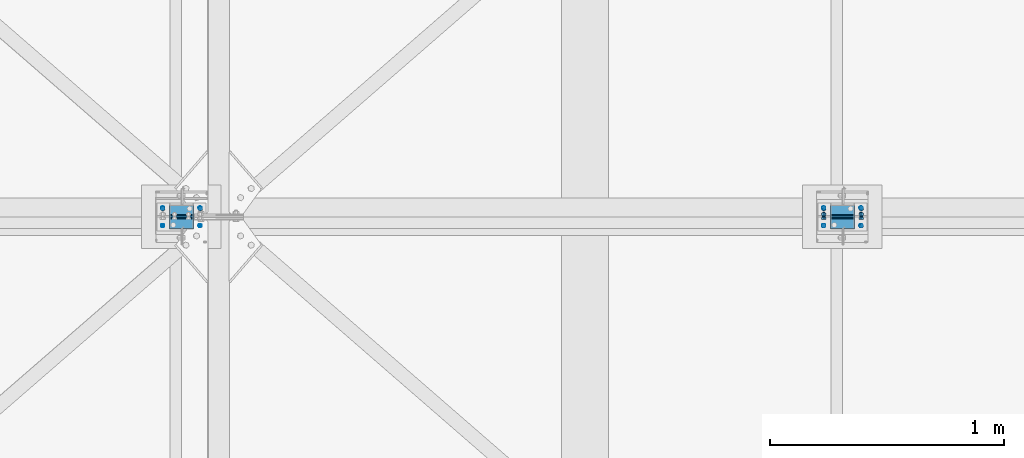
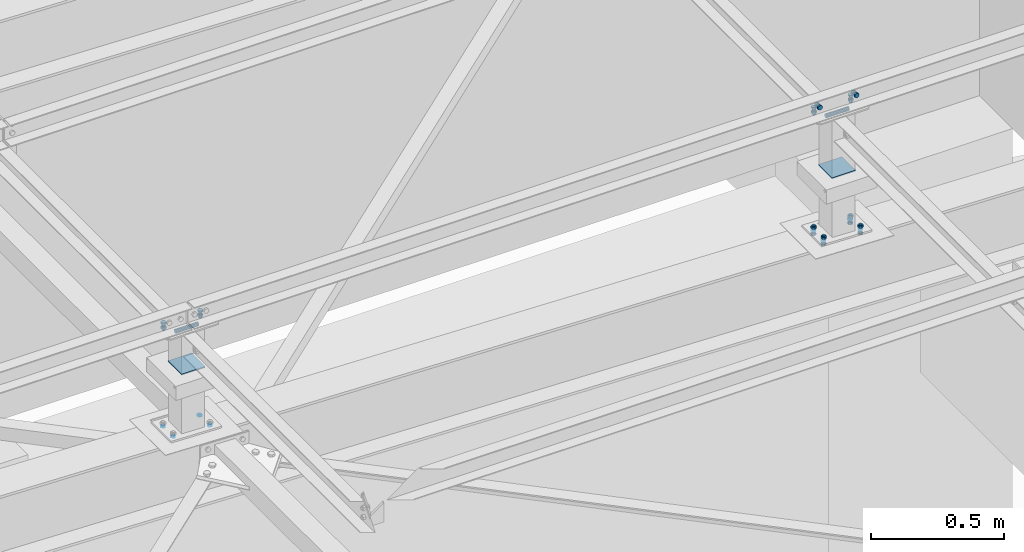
# One storey, part 237 of 3134: 10 mechanical fasteners, 7 elements without a shape of their own.
"""IFC2X3 building model written with IfcOpenShell, lengths in millimetres."""

from ifc_helpers import new_model, si_unit, frame, origin_with_axes, place, context, subcontext, project, spatial, faceted_brep, source, transform, mapped, material, type_object, element, aggregate, save


model = new_model("IFC2X3")

# Units and contexts
model_context = context("Model", 3, precision=1e-05, world=origin_with_axes())
body_context = subcontext(model_context, "Body", "Model", "MODEL_VIEW")
ifc_project = project(units=[si_unit("LENGTHUNIT", "METRE", prefix="MILLI"), si_unit("AREAUNIT", "SQUARE_METRE"), si_unit("VOLUMEUNIT", "CUBIC_METRE"), si_unit("MASSUNIT", "GRAM", prefix="KILO"), si_unit("TIMEUNIT", "SECOND"), si_unit("PLANEANGLEUNIT", "RADIAN"), si_unit("SOLIDANGLEUNIT", "STERADIAN"), si_unit("THERMODYNAMICTEMPERATUREUNIT", "DEGREE_CELSIUS"), si_unit("LUMINOUSINTENSITYUNIT", "LUMEN")], contexts=[model_context])

# Site, building, storey
site_placement = place(None, origin_with_axes())
site = spatial("IfcSite", under=ifc_project, at=site_placement, CompositionType="ELEMENT")
building_placement = place(site_placement, origin_with_axes())
building = spatial("IfcBuilding", under=site, at=building_placement, Name="Undefined", CompositionType="ELEMENT")
storey_placement = place(building_placement, origin_with_axes())
storey = spatial("IfcBuildingStorey", under=building, at=storey_placement, Name="Undefined", CompositionType="ELEMENT", Elevation=0.0)

# Assembly, mechanical fastener
assembly_1_placement = place(storey_placement, origin_with_axes())
assembly_1 = element("IfcElementAssembly", 1, at=assembly_1_placement, inside=storey, AssemblyPlace="NOTDEFINED", PredefinedType="RIGID_FRAME")
ifc_material_1 = material(Name="8.8")
mechanical_fastener_type = type_object("IfcMechanicalFastenerType", Name="Bolt assembly")
shared_shape_1 = source(origin_with_axes(), body_context, "Body", "Brep", [
    faceted_brep([(10.9696551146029, -14.0, 0.0), (5.48482755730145, -14.0, 9.5), (-5.48482755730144, -14.0, 9.5), (-10.9696551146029, -14.0, 1.34339530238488e-15), (-5.48482755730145, -14.0, -9.5), (5.48482755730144, -14.0, -9.50000000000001), (5.48482755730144, -6.0, -9.50000000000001), (-5.48482755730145, -6.0, -9.5), (-10.9696551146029, -6.0, 1.34339530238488e-15), (-5.48482755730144, -6.0, 9.5), (5.48482755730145, -6.0, 9.5), (10.9696551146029, -6.0, 0.0), (6.0, -6.0, 0.0), (5.19615242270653, -6.0, 3.00000000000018), (2.99999999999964, -6.0, 5.19615242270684), (-6.21801588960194e-13, -6.0, 6.0), (-3.00000000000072, -6.0, 5.19615242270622), (-5.19615242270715, -6.0, 2.9999999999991), (-6.0, -6.0, -1.24360317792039e-12), (-5.19615242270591, -6.0, -3.00000000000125), (-2.99999999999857, -6.0, -5.19615242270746), (1.85874342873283e-12, -6.0, -6.0), (3.00000000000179, -6.0, -5.1961524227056), (5.19615242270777, -6.0, -2.99999999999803), (5.19615242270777, 24.0, -2.99999999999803), (3.00000000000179, 24.0, -5.1961524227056), (1.85874342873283e-12, 24.0, -6.0), (-2.99999999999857, 24.0, -5.19615242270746), (-5.19615242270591, 24.0, -3.00000000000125), (-6.0, 24.0, -1.24360317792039e-12), (-5.19615242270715, 24.0, 2.9999999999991), (-3.00000000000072, 24.0, 5.19615242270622), (-6.21801588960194e-13, 24.0, 6.0), (2.99999999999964, 24.0, 5.19615242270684), (5.19615242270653, 24.0, 3.00000000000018), (6.0, 24.0, 0.0), (10.9696551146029, 6.00000000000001, 0.0), (5.48482755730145, 6.00000000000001, 9.5), (-5.48482755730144, 6.00000000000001, 9.5), (-10.9696551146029, 6.00000000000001, 1.34339530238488e-15), (-5.48482755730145, 6.00000000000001, -9.5), (5.48482755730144, 6.00000000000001, -9.50000000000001), (5.48482755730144, 16.0, -9.50000000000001), (-5.48482755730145, 16.0, -9.5), (-10.9696551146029, 16.0, 1.34339530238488e-15), (-5.48482755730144, 16.0, 9.5), (5.48482755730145, 16.0, 9.5), (10.9696551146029, 16.0, 0.0)], [[[0, 1, 2, 3, 4, 5]], [[6, 7, 8, 9, 10, 11]], [[0, 11, 10, 1]], [[1, 10, 9, 2]], [[2, 9, 8, 3]], [[3, 8, 7, 4]], [[4, 7, 6, 5]], [[5, 6, 11, 0]], [[12, 13, 14, 15, 16, 17, 18, 19, 20, 21, 22, 23]], [[24, 25, 26, 27, 28, 29, 30, 31, 32, 33, 34, 35]], [[12, 35, 34, 13]], [[13, 34, 33, 14]], [[14, 33, 32, 15]], [[15, 32, 31, 16]], [[16, 31, 30, 17]], [[17, 30, 29, 18]], [[18, 29, 28, 19]], [[19, 28, 27, 20]], [[20, 27, 26, 21]], [[21, 26, 25, 22]], [[22, 25, 24, 23]], [[23, 24, 35, 12]], [[36, 37, 38, 39, 40, 41]], [[42, 43, 44, 45, 46, 47]], [[36, 47, 46, 37]], [[37, 46, 45, 38]], [[38, 45, 44, 39]], [[39, 44, 43, 40]], [[40, 43, 42, 41]], [[41, 42, 47, 36]]]),
    faceted_brep([(7.0, -0.1, 0.0), (6.06217782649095, -0.1, 3.50000000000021), (3.49999999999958, -0.1, 6.06217782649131), (-7.25435187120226e-13, -0.1, 7.0), (-3.50000000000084, -0.1, 6.06217782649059), (-6.06217782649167, -0.1, 3.49999999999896), (-7.0, -0.1, -1.45087037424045e-12), (-6.06217782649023, -0.1, -3.50000000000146), (-3.49999999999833, -0.1, -6.06217782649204), (2.1685340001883e-12, -0.1, -7.0), (3.50000000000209, -0.1, -6.06217782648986), (6.0621778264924, -0.1, -3.4999999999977), (6.0621778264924, 6.00000000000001, -3.4999999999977), (3.50000000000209, 6.00000000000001, -6.06217782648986), (2.1685340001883e-12, 6.00000000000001, -7.0), (-3.49999999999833, 6.00000000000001, -6.06217782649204), (-6.06217782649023, 6.00000000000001, -3.50000000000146), (-7.0, 6.00000000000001, -1.45087037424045e-12), (-6.06217782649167, 6.00000000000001, 3.49999999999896), (-3.50000000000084, 6.00000000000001, 6.06217782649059), (-7.25435187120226e-13, 6.00000000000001, 7.0), (3.49999999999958, 6.00000000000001, 6.06217782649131), (6.06217782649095, 6.00000000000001, 3.50000000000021), (7.0, 6.00000000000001, 0.0), (7.0, -5.9, 0.0), (6.06217782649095, -5.9, 3.50000000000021), (3.49999999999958, -5.9, 6.06217782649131), (-7.25435187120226e-13, -5.9, 7.0), (-3.50000000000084, -5.9, 6.06217782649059), (-6.06217782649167, -5.9, 3.49999999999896), (-7.0, -5.9, -1.45087037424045e-12), (-6.06217782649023, -5.9, -3.50000000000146), (-3.49999999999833, -5.9, -6.06217782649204), (2.1685340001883e-12, -5.9, -7.0), (3.50000000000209, -5.9, -6.06217782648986), (6.0621778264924, -5.9, -3.4999999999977), (6.0621778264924, 0.0999999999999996, -3.4999999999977), (3.50000000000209, 0.0999999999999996, -6.06217782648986), (2.1685340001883e-12, 0.0999999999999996, -7.0), (-3.49999999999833, 0.0999999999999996, -6.06217782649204), (-6.06217782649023, 0.0999999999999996, -3.50000000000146), (-7.0, 0.0999999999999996, -1.45087037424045e-12), (-6.06217782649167, 0.0999999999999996, 3.49999999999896), (-3.50000000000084, 0.0999999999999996, 6.06217782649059), (-7.25435187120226e-13, 0.0999999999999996, 7.0), (3.49999999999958, 0.0999999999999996, 6.06217782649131), (6.06217782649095, 0.0999999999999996, 3.50000000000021), (7.0, 0.0999999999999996, 0.0)], [[[0, 1, 2, 3, 4, 5, 6, 7, 8, 9, 10, 11]], [[12, 13, 14, 15, 16, 17, 18, 19, 20, 21, 22, 23]], [[0, 23, 22, 1]], [[1, 22, 21, 2]], [[2, 21, 20, 3]], [[3, 20, 19, 4]], [[4, 19, 18, 5]], [[5, 18, 17, 6]], [[6, 17, 16, 7]], [[7, 16, 15, 8]], [[8, 15, 14, 9]], [[9, 14, 13, 10]], [[10, 13, 12, 11]], [[11, 12, 23, 0]], [[24, 25, 26, 27, 28, 29, 30, 31, 32, 33, 34, 35]], [[36, 37, 38, 39, 40, 41, 42, 43, 44, 45, 46, 47]], [[24, 47, 46, 25]], [[25, 46, 45, 26]], [[26, 45, 44, 27]], [[27, 44, 43, 28]], [[28, 43, 42, 29]], [[29, 42, 41, 30]], [[30, 41, 40, 31]], [[31, 40, 39, 32]], [[32, 39, 38, 33]], [[33, 38, 37, 34]], [[34, 37, 36, 35]], [[35, 36, 47, 24]]]),
])
mechanical_fastener_1_placement = place(assembly_1_placement, frame((26019.0, 55490.0, 10865.0), z_axis=(1.0, 0.0, 0.0), x_axis=(0.0, -1.0, 0.0)))
mechanical_fastener_1 = element("IfcMechanicalFastener", 2, at=mechanical_fastener_1_placement, type_object=mechanical_fastener_type, material=ifc_material_1, Name="Bolt assembly", NominalDiameter=12.0, NominalLength=30.0, context=body_context, shape_type="MappedRepresentation", body=[
    mapped(shared_shape_1, transform((0.0, -5.32963895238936e-10, -79.9999999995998))),
    mapped(shared_shape_1, transform((0.0, 5.3114490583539e-10, 79.9999999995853))),
])
aggregate(assembly_1, [mechanical_fastener_1])

assembly_2_placement = place(storey_placement, origin_with_axes())
assembly_2 = element("IfcElementAssembly", 3, at=assembly_2_placement, inside=storey, AssemblyPlace="NOTDEFINED", PredefinedType="RIGID_FRAME")
mechanical_fastener_2_placement = place(assembly_2_placement, frame((28847.0, 55490.0, 10865.0), z_axis=(1.0, 0.0, 0.0), x_axis=(0.0, -1.0, 0.0)))
mechanical_fastener_2 = element("IfcMechanicalFastener", 4, at=mechanical_fastener_2_placement, type_object=mechanical_fastener_type, material=ifc_material_1, Name="Bolt assembly", NominalDiameter=12.0, NominalLength=30.0, context=body_context, shape_type="MappedRepresentation", body=[
    mapped(shared_shape_1, transform((0.0, -5.32963895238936e-10, -79.9999999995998))),
    mapped(shared_shape_1, transform((0.0, 5.3114490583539e-10, 79.9999999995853))),
])

assembly_3_placement = place(storey_placement, origin_with_axes())
assembly_3 = element("IfcElementAssembly", 5, at=assembly_3_placement, inside=storey, AssemblyPlace="NOTDEFINED", PredefinedType="RIGID_FRAME")
shared_shape_2 = source(origin_with_axes(), body_context, "Body", "Brep", [
    faceted_brep([(7.0, 13.0000253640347, 0.0), (6.06217782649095, 13.0000253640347, 3.50000000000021), (3.49999999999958, 13.0000253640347, 6.06217782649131), (-7.25435187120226e-13, 13.0000253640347, 7.0), (-3.50000000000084, 13.0000253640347, 6.06217782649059), (-6.06217782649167, 13.0000253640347, 3.49999999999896), (-7.0, 13.0000253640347, -1.45087037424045e-12), (-6.06217782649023, 13.0000253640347, -3.50000000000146), (-3.49999999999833, 13.0000253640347, -6.06217782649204), (2.1685340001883e-12, 13.0000253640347, -7.0), (3.50000000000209, 13.0000253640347, -6.06217782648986), (6.0621778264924, 13.0000253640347, -3.4999999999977), (6.0621778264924, 15.0999999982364, -3.4999999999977), (3.50000000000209, 15.0999999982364, -6.06217782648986), (2.1685340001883e-12, 15.0999999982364, -7.0), (-3.49999999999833, 15.0999999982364, -6.06217782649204), (-6.06217782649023, 15.0999999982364, -3.50000000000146), (-7.0, 15.0999999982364, -1.45087037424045e-12), (-6.06217782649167, 15.0999999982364, 3.49999999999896), (-3.50000000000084, 15.0999999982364, 6.06217782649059), (-7.25435187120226e-13, 15.0999999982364, 7.0), (3.49999999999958, 15.0999999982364, 6.06217782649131), (6.06217782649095, 15.0999999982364, 3.50000000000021), (7.0, 15.0999999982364, 0.0)], [[[0, 1, 2, 3, 4, 5, 6, 7, 8, 9, 10, 11]], [[12, 13, 14, 15, 16, 17, 18, 19, 20, 21, 22, 23]], [[0, 23, 22, 1]], [[1, 22, 21, 2]], [[2, 21, 20, 3]], [[3, 20, 19, 4]], [[4, 19, 18, 5]], [[5, 18, 17, 6]], [[6, 17, 16, 7]], [[7, 16, 15, 8]], [[8, 15, 14, 9]], [[9, 14, 13, 10]], [[10, 13, 12, 11]], [[11, 12, 23, 0]]]),
])
mechanical_fastener_3_placement = place(assembly_3_placement, frame((26018.2251187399, 55493.0, 10379.5372055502), z_axis=(-0.99951962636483, 0.0, 0.0309922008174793), x_axis=(0.0, -1.0, 0.0)))
mechanical_fastener_3 = element("IfcMechanicalFastener", 6, at=mechanical_fastener_3_placement, type_object=mechanical_fastener_type, material=ifc_material_1, Name="Bolt assembly", NominalDiameter=12.0, NominalLength=2.0, context=body_context, shape_type="MappedRepresentation", body=[
    mapped(shared_shape_2, transform((0.0, -5.32963895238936e-10, -79.9999999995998))),
    mapped(shared_shape_2, transform((76.0, -5.32963895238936e-10, -79.9999999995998))),
    mapped(shared_shape_2, transform((0.0, 5.3114490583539e-10, 79.9999999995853))),
    mapped(shared_shape_2, transform((76.0, 5.3114490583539e-10, 79.9999999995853))),
])
aggregate(assembly_3, [mechanical_fastener_3])

assembly_4_placement = place(storey_placement, origin_with_axes())
assembly_4 = element("IfcElementAssembly", 7, at=assembly_4_placement, inside=storey, AssemblyPlace="NOTDEFINED", PredefinedType="RIGID_FRAME")
mechanical_fastener_4_placement = place(assembly_4_placement, frame((28846.2851187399, 55493.0, 10291.8572055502), z_axis=(-0.99951962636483, 0.0, 0.0309922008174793), x_axis=(0.0, -1.0, 0.0)))
mechanical_fastener_4 = element("IfcMechanicalFastener", 8, at=mechanical_fastener_4_placement, type_object=mechanical_fastener_type, material=ifc_material_1, Name="Bolt assembly", NominalDiameter=12.0, NominalLength=2.0, context=body_context, shape_type="MappedRepresentation", body=[
    mapped(shared_shape_2, transform((0.0, -5.32963895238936e-10, -79.9999999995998))),
    mapped(shared_shape_2, transform((76.0, -5.32963895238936e-10, -79.9999999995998))),
    mapped(shared_shape_2, transform((0.0, 5.3114490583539e-10, 79.9999999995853))),
    mapped(shared_shape_2, transform((76.0, 5.3114490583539e-10, 79.9999999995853))),
])
aggregate(assembly_4, [mechanical_fastener_4])

assembly_5_placement = place(storey_placement, origin_with_axes())
assembly_5 = element("IfcElementAssembly", 9, at=assembly_5_placement, inside=storey, AssemblyPlace="NOTDEFINED", PredefinedType="RIGID_FRAME")
shared_shape_3 = source(origin_with_axes(), body_context, "Body", "Brep", [
    faceted_brep([(9.0, -50.0, 0.0), (7.79422863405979, -50.0, 4.50000000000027), (4.49999999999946, -50.0, 7.79422863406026), (-9.3270238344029e-13, -50.0, 9.0), (-4.50000000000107, -50.0, 7.79422863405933), (-7.79422863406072, -50.0, 4.49999999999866), (-9.0, -50.0, -1.86540476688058e-12), (-7.79422863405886, -50.0, -4.50000000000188), (-4.49999999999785, -50.0, -7.79422863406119), (2.78811514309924e-12, -50.0, -9.0), (4.50000000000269, -50.0, -7.7942286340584), (7.79422863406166, -50.0, -4.49999999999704), (7.79422863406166, 50.1, -4.49999999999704), (4.50000000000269, 50.1, -7.7942286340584), (2.78811514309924e-12, 50.1, -9.0), (-4.49999999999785, 50.1, -7.79422863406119), (-7.79422863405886, 50.1, -4.50000000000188), (-9.0, 50.1, -1.86540476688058e-12), (-7.79422863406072, 50.1, 4.49999999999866), (-4.50000000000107, 50.1, 7.79422863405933), (-9.3270238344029e-13, 50.1, 9.0), (4.49999999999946, 50.1, 7.79422863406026), (7.79422863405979, 50.1, 4.50000000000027), (9.0, 50.1, 0.0)], [[[0, 1, 2, 3, 4, 5, 6, 7, 8, 9, 10, 11]], [[12, 13, 14, 15, 16, 17, 18, 19, 20, 21, 22, 23]], [[0, 23, 22, 1]], [[1, 22, 21, 2]], [[2, 21, 20, 3]], [[3, 20, 19, 4]], [[4, 19, 18, 5]], [[5, 18, 17, 6]], [[6, 17, 16, 7]], [[7, 16, 15, 8]], [[8, 15, 14, 9]], [[9, 14, 13, 10]], [[10, 13, 12, 11]], [[11, 12, 23, 0]]]),
])
mechanical_fastener_5_placement = place(assembly_5_placement, frame((26019.0, 55455.0, 10845.0), z_axis=(0.0, 1.0, 0.0), x_axis=(0.0, 0.0, 1.0)))
mechanical_fastener_5 = element("IfcMechanicalFastener", 10, at=mechanical_fastener_5_placement, type_object=mechanical_fastener_type, material=ifc_material_1, Name="Bolt assembly", NominalDiameter=16.0, NominalLength=100.0, context=body_context, shape_type="MappedRepresentation", body=[
    mapped(shared_shape_3, transform((0.0, 0.0, 0.0))),
])

assembly_6_placement = place(storey_placement, origin_with_axes())
assembly_6 = element("IfcElementAssembly", 11, at=assembly_6_placement, inside=storey, AssemblyPlace="NOTDEFINED", PredefinedType="RIGID_FRAME")
mechanical_fastener_6_placement = place(assembly_6_placement, frame((28847.0, 55455.0, 10845.0), z_axis=(0.0, 1.0, 0.0), x_axis=(0.0, 0.0, 1.0)))
mechanical_fastener_6 = element("IfcMechanicalFastener", 12, at=mechanical_fastener_6_placement, type_object=mechanical_fastener_type, material=ifc_material_1, Name="Bolt assembly", NominalDiameter=16.0, NominalLength=100.0, context=body_context, shape_type="MappedRepresentation", body=[
    mapped(shared_shape_3, transform((0.0, 0.0, 0.0))),
])

# Mechanical fastener
ifc_material_2 = material(Name="6.8")
shared_shape_4 = source(origin_with_axes(), body_context, "Body", "Brep", [
    faceted_brep([(51.5, 1.36424205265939e-12, 50.0), (51.3858192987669, 1.36424205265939e-12, 50.5740251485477), (51.0606601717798, 1.36424205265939e-12, 51.0606601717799), (50.5740251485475, 1.36424205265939e-12, 51.385819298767), (-50.0000000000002, 1.36424205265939e-12, 51.5), (-50.7500000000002, 1.36424205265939e-12, 51.2990381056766), (-51.2990381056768, 1.36424205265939e-12, 50.7499999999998), (-51.5, 1.36424205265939e-12, 49.9999999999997), (-51.5, 1.36424205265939e-12, -50.0000000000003), (-51.2990381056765, 1.36424205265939e-12, -50.7500000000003), (-50.7499999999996, 1.36424205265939e-12, -51.2990381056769), (-49.9999999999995, 1.36424205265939e-12, -51.5), (50.0000000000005, 1.36424205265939e-12, -51.5), (50.7500000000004, 1.36424205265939e-12, -51.2990381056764), (51.2990381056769, 1.36424205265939e-12, -50.7499999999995), (51.5, 1.36424205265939e-12, -49.9999999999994), (51.5, 5.10000000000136, -49.9999999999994), (51.2990381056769, 5.10000000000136, -50.7499999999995), (50.7500000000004, 5.10000000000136, -51.2990381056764), (50.0000000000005, 5.10000000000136, -51.5), (-49.9999999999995, 5.10000000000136, -51.5), (-50.7499999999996, 5.10000000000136, -51.2990381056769), (-51.2990381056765, 5.10000000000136, -50.7500000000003), (-51.5, 5.10000000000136, -50.0000000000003), (-51.5, 5.10000000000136, 49.9999999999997), (-51.2990381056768, 5.10000000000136, 50.7499999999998), (-50.7500000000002, 5.10000000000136, 51.2990381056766), (-50.0000000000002, 5.10000000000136, 51.5), (50.5740251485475, 5.10000000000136, 51.385819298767), (51.0606601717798, 5.10000000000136, 51.0606601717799), (51.3858192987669, 5.10000000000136, 50.5740251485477), (51.5, 5.10000000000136, 50.0)], [[[0, 1, 2, 3, 4, 5, 6, 7, 8, 9, 10, 11, 12, 13, 14, 15]], [[16, 17, 18, 19, 20, 21, 22, 23, 24, 25, 26, 27, 28, 29, 30, 31]], [[0, 31, 30, 1]], [[1, 30, 29, 2]], [[2, 29, 28, 3]], [[3, 28, 27, 4]], [[4, 27, 26, 5]], [[5, 26, 25, 6]], [[6, 25, 24, 7]], [[7, 24, 23, 8]], [[8, 23, 22, 9]], [[9, 22, 21, 10]], [[10, 21, 20, 11]], [[11, 20, 19, 12]], [[12, 19, 18, 13]], [[13, 18, 17, 14]], [[14, 17, 16, 15]], [[15, 16, 31, 0]]]),
])
mechanical_fastener_7_placement = place(assembly_5_placement, frame((26019.0, 55455.0, 10679.21), z_axis=(0.0, -1.0, 0.0), x_axis=(-1.0, 0.0, 0.0)))
mechanical_fastener_7 = element("IfcMechanicalFastener", 13, at=mechanical_fastener_7_placement, type_object=mechanical_fastener_type, material=ifc_material_2, Name="Bolt assembly", NominalDiameter=10.0, NominalLength=5.0, context=body_context, shape_type="MappedRepresentation", body=[
    mapped(shared_shape_4, transform((0.0, 0.0, 0.0))),
])

aggregate(assembly_5, [mechanical_fastener_5, mechanical_fastener_7])

mechanical_fastener_8_placement = place(assembly_6_placement, frame((28847.0, 55455.0, 10591.54), z_axis=(0.0, -1.0, 0.0), x_axis=(-1.0, 0.0, 0.0)))
mechanical_fastener_8 = element("IfcMechanicalFastener", 14, at=mechanical_fastener_8_placement, type_object=mechanical_fastener_type, material=ifc_material_2, Name="Bolt assembly", NominalDiameter=10.0, NominalLength=5.0, context=body_context, shape_type="MappedRepresentation", body=[
    mapped(shared_shape_4, transform((0.0, 0.0, 0.0))),
])

aggregate(assembly_6, [mechanical_fastener_6, mechanical_fastener_8])

shared_shape_5 = source(origin_with_axes(), body_context, "Body", "Brep", [
    faceted_brep([(10.9696551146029, -12.0, 0.0), (5.48482755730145, -12.0, 9.5), (-5.48482755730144, -12.0, 9.5), (-10.9696551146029, -12.0, 1.34339530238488e-15), (-5.48482755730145, -12.0, -9.5), (5.48482755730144, -12.0, -9.50000000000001), (5.48482755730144, -4.0, -9.50000000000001), (-5.48482755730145, -4.0, -9.5), (-10.9696551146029, -4.0, 1.34339530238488e-15), (-5.48482755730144, -4.0, 9.5), (5.48482755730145, -4.0, 9.5), (10.9696551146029, -4.0, 0.0), (6.0, -4.0, 0.0), (5.19615242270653, -4.0, 3.00000000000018), (2.99999999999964, -4.0, 5.19615242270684), (-6.21801588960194e-13, -4.0, 6.0), (-3.00000000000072, -4.0, 5.19615242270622), (-5.19615242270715, -4.0, 2.9999999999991), (-6.0, -4.0, -1.24360317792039e-12), (-5.19615242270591, -4.0, -3.00000000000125), (-2.99999999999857, -4.0, -5.19615242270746), (1.85874342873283e-12, -4.0, -6.0), (3.00000000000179, -4.0, -5.1961524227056), (5.19615242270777, -4.0, -2.99999999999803), (5.19615242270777, 21.0, -2.99999999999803), (3.00000000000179, 21.0, -5.1961524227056), (1.85874342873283e-12, 21.0, -6.0), (-2.99999999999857, 21.0, -5.19615242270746), (-5.19615242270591, 21.0, -3.00000000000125), (-6.0, 21.0, -1.24360317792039e-12), (-5.19615242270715, 21.0, 2.9999999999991), (-3.00000000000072, 21.0, 5.19615242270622), (-6.21801588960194e-13, 21.0, 6.0), (2.99999999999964, 21.0, 5.19615242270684), (5.19615242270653, 21.0, 3.00000000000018), (6.0, 21.0, 0.0), (10.9696551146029, 6.00000000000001, 0.0), (5.48482755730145, 6.00000000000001, 9.5), (-5.48482755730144, 6.00000000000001, 9.5), (-10.9696551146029, 6.00000000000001, 1.34339530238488e-15), (-5.48482755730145, 6.00000000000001, -9.5), (5.48482755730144, 6.00000000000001, -9.50000000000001), (5.48482755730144, 16.0, -9.50000000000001), (-5.48482755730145, 16.0, -9.5), (-10.9696551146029, 16.0, 1.34339530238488e-15), (-5.48482755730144, 16.0, 9.5), (5.48482755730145, 16.0, 9.5), (10.9696551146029, 16.0, 0.0)], [[[0, 1, 2, 3, 4, 5]], [[6, 7, 8, 9, 10, 11]], [[0, 11, 10, 1]], [[1, 10, 9, 2]], [[2, 9, 8, 3]], [[3, 8, 7, 4]], [[4, 7, 6, 5]], [[5, 6, 11, 0]], [[12, 13, 14, 15, 16, 17, 18, 19, 20, 21, 22, 23]], [[24, 25, 26, 27, 28, 29, 30, 31, 32, 33, 34, 35]], [[12, 35, 34, 13]], [[13, 34, 33, 14]], [[14, 33, 32, 15]], [[15, 32, 31, 16]], [[16, 31, 30, 17]], [[17, 30, 29, 18]], [[18, 29, 28, 19]], [[19, 28, 27, 20]], [[20, 27, 26, 21]], [[21, 26, 25, 22]], [[22, 25, 24, 23]], [[23, 24, 35, 12]], [[36, 37, 38, 39, 40, 41]], [[42, 43, 44, 45, 46, 47]], [[36, 47, 46, 37]], [[37, 46, 45, 38]], [[38, 45, 44, 39]], [[39, 44, 43, 40]], [[40, 43, 42, 41]], [[41, 42, 47, 36]]]),
    faceted_brep([(7.0, -3.9, 0.0), (6.06217782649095, -3.9, 3.50000000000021), (3.49999999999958, -3.9, 6.06217782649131), (-7.25435187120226e-13, -3.9, 7.0), (-3.50000000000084, -3.9, 6.06217782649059), (-6.06217782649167, -3.9, 3.49999999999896), (-7.0, -3.9, -1.45087037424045e-12), (-6.06217782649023, -3.9, -3.50000000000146), (-3.49999999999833, -3.9, -6.06217782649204), (2.1685340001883e-12, -3.9, -7.0), (3.50000000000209, -3.9, -6.06217782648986), (6.0621778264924, -3.9, -3.4999999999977), (6.0621778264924, 0.0999999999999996, -3.4999999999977), (3.50000000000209, 0.0999999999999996, -6.06217782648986), (2.1685340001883e-12, 0.0999999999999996, -7.0), (-3.49999999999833, 0.0999999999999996, -6.06217782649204), (-6.06217782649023, 0.0999999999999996, -3.50000000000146), (-7.0, 0.0999999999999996, -1.45087037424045e-12), (-6.06217782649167, 0.0999999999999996, 3.49999999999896), (-3.50000000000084, 0.0999999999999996, 6.06217782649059), (-7.25435187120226e-13, 0.0999999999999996, 7.0), (3.49999999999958, 0.0999999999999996, 6.06217782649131), (6.06217782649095, 0.0999999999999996, 3.50000000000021), (7.0, 0.0999999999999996, 0.0), (7.0, -0.1, 0.0), (6.06217782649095, -0.1, 3.50000000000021), (3.49999999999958, -0.1, 6.06217782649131), (-7.25435187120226e-13, -0.1, 7.0), (-3.50000000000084, -0.1, 6.06217782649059), (-6.06217782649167, -0.1, 3.49999999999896), (-7.0, -0.1, -1.45087037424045e-12), (-6.06217782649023, -0.1, -3.50000000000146), (-3.49999999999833, -0.1, -6.06217782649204), (2.1685340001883e-12, -0.1, -7.0), (3.50000000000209, -0.1, -6.06217782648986), (6.0621778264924, -0.1, -3.4999999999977), (6.0621778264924, 6.00000000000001, -3.4999999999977), (3.50000000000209, 6.00000000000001, -6.06217782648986), (2.1685340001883e-12, 6.00000000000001, -7.0), (-3.49999999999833, 6.00000000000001, -6.06217782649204), (-6.06217782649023, 6.00000000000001, -3.50000000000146), (-7.0, 6.00000000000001, -1.45087037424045e-12), (-6.06217782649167, 6.00000000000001, 3.49999999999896), (-3.50000000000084, 6.00000000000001, 6.06217782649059), (-7.25435187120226e-13, 6.00000000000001, 7.0), (3.49999999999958, 6.00000000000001, 6.06217782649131), (6.06217782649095, 6.00000000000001, 3.50000000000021), (7.0, 6.00000000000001, 0.0)], [[[0, 1, 2, 3, 4, 5, 6, 7, 8, 9, 10, 11]], [[12, 13, 14, 15, 16, 17, 18, 19, 20, 21, 22, 23]], [[0, 23, 22, 1]], [[1, 22, 21, 2]], [[2, 21, 20, 3]], [[3, 20, 19, 4]], [[4, 19, 18, 5]], [[5, 18, 17, 6]], [[6, 17, 16, 7]], [[7, 16, 15, 8]], [[8, 15, 14, 9]], [[9, 14, 13, 10]], [[10, 13, 12, 11]], [[11, 12, 23, 0]], [[24, 25, 26, 27, 28, 29, 30, 31, 32, 33, 34, 35]], [[36, 37, 38, 39, 40, 41, 42, 43, 44, 45, 46, 47]], [[24, 47, 46, 25]], [[25, 46, 45, 26]], [[26, 45, 44, 27]], [[27, 44, 43, 28]], [[28, 43, 42, 29]], [[29, 42, 41, 30]], [[30, 41, 40, 31]], [[31, 40, 39, 32]], [[32, 39, 38, 33]], [[33, 38, 37, 34]], [[34, 37, 36, 35]], [[35, 36, 47, 24]]]),
])
mechanical_fastener_9_placement = place(assembly_2_placement, frame((28847.0, 55455.0, 10900.0), z_axis=(1.0, 0.0, 0.0), x_axis=(0.0, 0.0, -1.0)))
mechanical_fastener_9 = element("IfcMechanicalFastener", 15, at=mechanical_fastener_9_placement, type_object=mechanical_fastener_type, material=ifc_material_1, Name="Bolt assembly", NominalDiameter=12.0, NominalLength=25.0, context=body_context, shape_type="MappedRepresentation", body=[
    mapped(shared_shape_5, transform((0.0, -5.32963895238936e-10, -79.9999999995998))),
    mapped(shared_shape_5, transform((0.0, 5.3114490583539e-10, 79.9999999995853))),
])

aggregate(assembly_2, [mechanical_fastener_9, mechanical_fastener_2])

# Assembly, mechanical fastener
assembly_7_placement = place(storey_placement, origin_with_axes())
assembly_7 = element("IfcElementAssembly", 16, at=assembly_7_placement, inside=storey, Name="IPE330", AssemblyPlace="NOTDEFINED", PredefinedType="RIGID_FRAME")
shared_shape_6 = source(origin_with_axes(), body_context, "Body", "Brep", [
    faceted_brep([(10.9696551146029, -6.4876179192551, 0.0), (5.48482755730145, -6.4876179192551, 9.5), (-5.48482755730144, -6.4876179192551, 9.5), (-10.9696551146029, -6.4876179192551, 1.34339530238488e-15), (-5.48482755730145, -6.4876179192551, -9.5), (5.48482755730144, -6.4876179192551, -9.50000000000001), (5.48482755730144, 1.5123820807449, -9.50000000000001), (-5.48482755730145, 1.5123820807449, -9.5), (-10.9696551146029, 1.5123820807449, 1.34339530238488e-15), (-5.48482755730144, 1.5123820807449, 9.5), (5.48482755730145, 1.5123820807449, 9.5), (10.9696551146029, 1.5123820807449, 0.0), (6.0, 1.5123820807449, 0.0), (5.19615242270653, 1.5123820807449, 3.00000000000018), (2.99999999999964, 1.5123820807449, 5.19615242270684), (-6.21801588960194e-13, 1.5123820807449, 6.0), (-3.00000000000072, 1.5123820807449, 5.19615242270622), (-5.19615242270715, 1.5123820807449, 2.9999999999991), (-6.0, 1.5123820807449, -1.24360317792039e-12), (-5.19615242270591, 1.5123820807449, -3.00000000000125), (-2.99999999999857, 1.5123820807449, -5.19615242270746), (1.85874342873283e-12, 1.5123820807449, -6.0), (3.00000000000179, 1.5123820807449, -5.1961524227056), (5.19615242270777, 1.5123820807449, -2.99999999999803), (5.19615242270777, 36.5123820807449, -2.99999999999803), (3.00000000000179, 36.5123820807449, -5.1961524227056), (1.85874342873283e-12, 36.5123820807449, -6.0), (-2.99999999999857, 36.5123820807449, -5.19615242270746), (-5.19615242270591, 36.5123820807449, -3.00000000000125), (-6.0, 36.5123820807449, -1.24360317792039e-12), (-5.19615242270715, 36.5123820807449, 2.9999999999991), (-3.00000000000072, 36.5123820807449, 5.19615242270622), (-6.21801588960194e-13, 36.5123820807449, 6.0), (2.99999999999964, 36.5123820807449, 5.19615242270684), (5.19615242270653, 36.5123820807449, 3.00000000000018), (6.0, 36.5123820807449, 0.0), (10.9696551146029, 23.0039050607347, 0.0), (5.48482755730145, 23.0039050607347, 9.5), (-5.48482755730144, 23.0039050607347, 9.5), (-10.9696551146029, 23.0039050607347, 1.34339530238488e-15), (-5.48482755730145, 23.0039050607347, -9.5), (5.48482755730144, 23.0039050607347, -9.50000000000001), (5.48482755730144, 33.0039050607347, -9.50000000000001), (-5.48482755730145, 33.0039050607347, -9.5), (-10.9696551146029, 33.0039050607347, 1.34339530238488e-15), (-5.48482755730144, 33.0039050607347, 9.5), (5.48482755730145, 33.0039050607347, 9.5), (10.9696551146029, 33.0039050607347, 0.0)], [[[0, 1, 2, 3, 4, 5]], [[6, 7, 8, 9, 10, 11]], [[0, 11, 10, 1]], [[1, 10, 9, 2]], [[2, 9, 8, 3]], [[3, 8, 7, 4]], [[4, 7, 6, 5]], [[5, 6, 11, 0]], [[12, 13, 14, 15, 16, 17, 18, 19, 20, 21, 22, 23]], [[24, 25, 26, 27, 28, 29, 30, 31, 32, 33, 34, 35]], [[12, 35, 34, 13]], [[13, 34, 33, 14]], [[14, 33, 32, 15]], [[15, 32, 31, 16]], [[16, 31, 30, 17]], [[17, 30, 29, 18]], [[18, 29, 28, 19]], [[19, 28, 27, 20]], [[20, 27, 26, 21]], [[21, 26, 25, 22]], [[22, 25, 24, 23]], [[23, 24, 35, 12]], [[36, 37, 38, 39, 40, 41]], [[42, 43, 44, 45, 46, 47]], [[36, 47, 46, 37]], [[37, 46, 45, 38]], [[38, 45, 44, 39]], [[39, 44, 43, 40]], [[40, 43, 42, 41]], [[41, 42, 47, 36]]]),
    faceted_brep([(7.0, 14.9039050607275, 0.0), (6.06217782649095, 14.9039050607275, 3.50000000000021), (3.49999999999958, 14.9039050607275, 6.06217782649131), (-7.25435187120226e-13, 14.9039050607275, 7.0), (-3.50000000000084, 14.9039050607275, 6.06217782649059), (-6.06217782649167, 14.9039050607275, 3.49999999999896), (-7.0, 14.9039050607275, -1.45087037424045e-12), (-6.06217782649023, 14.9039050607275, -3.50000000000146), (-3.49999999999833, 14.9039050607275, -6.06217782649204), (2.1685340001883e-12, 14.9039050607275, -7.0), (3.50000000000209, 14.9039050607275, -6.06217782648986), (6.0621778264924, 14.9039050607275, -3.4999999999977), (6.0621778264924, 23.0039050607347, -3.4999999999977), (3.50000000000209, 23.0039050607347, -6.06217782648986), (2.1685340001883e-12, 23.0039050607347, -7.0), (-3.49999999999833, 23.0039050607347, -6.06217782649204), (-6.06217782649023, 23.0039050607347, -3.50000000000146), (-7.0, 23.0039050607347, -1.45087037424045e-12), (-6.06217782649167, 23.0039050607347, 3.49999999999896), (-3.50000000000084, 23.0039050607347, 6.06217782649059), (-7.25435187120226e-13, 23.0039050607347, 7.0), (3.49999999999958, 23.0039050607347, 6.06217782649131), (6.06217782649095, 23.0039050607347, 3.50000000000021), (7.0, 23.0039050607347, 0.0), (7.0, 1.6123820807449, 0.0), (6.06217782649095, 1.6123820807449, 3.50000000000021), (3.49999999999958, 1.6123820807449, 6.06217782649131), (-7.25435187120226e-13, 1.6123820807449, 7.0), (-3.50000000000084, 1.6123820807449, 6.06217782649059), (-6.06217782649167, 1.6123820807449, 3.49999999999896), (-7.0, 1.6123820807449, -1.45087037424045e-12), (-6.06217782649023, 1.6123820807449, -3.50000000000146), (-3.49999999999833, 1.6123820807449, -6.06217782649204), (2.1685340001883e-12, 1.6123820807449, -7.0), (3.50000000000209, 1.6123820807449, -6.06217782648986), (6.0621778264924, 1.6123820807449, -3.4999999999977), (6.0621778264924, 13.1123820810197, -3.4999999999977), (3.50000000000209, 13.1123820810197, -6.06217782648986), (2.1685340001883e-12, 13.1123820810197, -7.0), (-3.49999999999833, 13.1123820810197, -6.06217782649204), (-6.06217782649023, 13.1123820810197, -3.50000000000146), (-7.0, 13.1123820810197, -1.45087037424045e-12), (-6.06217782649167, 13.1123820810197, 3.49999999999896), (-3.50000000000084, 13.1123820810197, 6.06217782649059), (-7.25435187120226e-13, 13.1123820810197, 7.0), (3.49999999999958, 13.1123820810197, 6.06217782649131), (6.06217782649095, 13.1123820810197, 3.50000000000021), (7.0, 13.1123820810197, 0.0)], [[[0, 1, 2, 3, 4, 5, 6, 7, 8, 9, 10, 11]], [[12, 13, 14, 15, 16, 17, 18, 19, 20, 21, 22, 23]], [[0, 23, 22, 1]], [[1, 22, 21, 2]], [[2, 21, 20, 3]], [[3, 20, 19, 4]], [[4, 19, 18, 5]], [[5, 18, 17, 6]], [[6, 17, 16, 7]], [[7, 16, 15, 8]], [[8, 15, 14, 9]], [[9, 14, 13, 10]], [[10, 13, 12, 11]], [[11, 12, 23, 0]], [[24, 25, 26, 27, 28, 29, 30, 31, 32, 33, 34, 35]], [[36, 37, 38, 39, 40, 41, 42, 43, 44, 45, 46, 47]], [[24, 47, 46, 25]], [[25, 46, 45, 26]], [[26, 45, 44, 27]], [[27, 44, 43, 28]], [[28, 43, 42, 29]], [[29, 42, 41, 30]], [[30, 41, 40, 31]], [[31, 40, 39, 32]], [[32, 39, 38, 33]], [[33, 38, 37, 34]], [[34, 37, 36, 35]], [[35, 36, 47, 24]]]),
])
mechanical_fastener_10_placement = place(assembly_7_placement, frame((28846.2851187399, 55493.0, 10291.8572055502), z_axis=(-0.99951962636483, 0.0, 0.0309922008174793), x_axis=(0.0, -1.0, 0.0)))
mechanical_fastener_10 = element("IfcMechanicalFastener", 17, at=mechanical_fastener_10_placement, type_object=mechanical_fastener_type, material=ifc_material_1, Name="Bolt assembly", NominalDiameter=12.0, NominalLength=35.0, context=body_context, shape_type="MappedRepresentation", body=[
    mapped(shared_shape_6, transform((0.0, -5.32963895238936e-10, -79.9999999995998))),
    mapped(shared_shape_6, transform((76.0, -5.32963895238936e-10, -79.9999999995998))),
    mapped(shared_shape_6, transform((0.0, 5.3114490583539e-10, 79.9999999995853))),
    mapped(shared_shape_6, transform((76.0, 5.3114490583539e-10, 79.9999999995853))),
])
aggregate(assembly_7, [mechanical_fastener_10])

save(model, "model.ifc")
